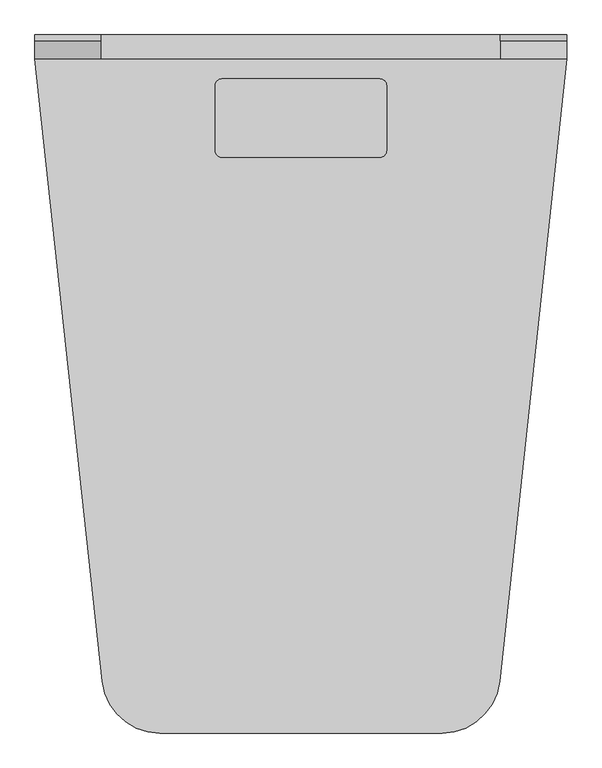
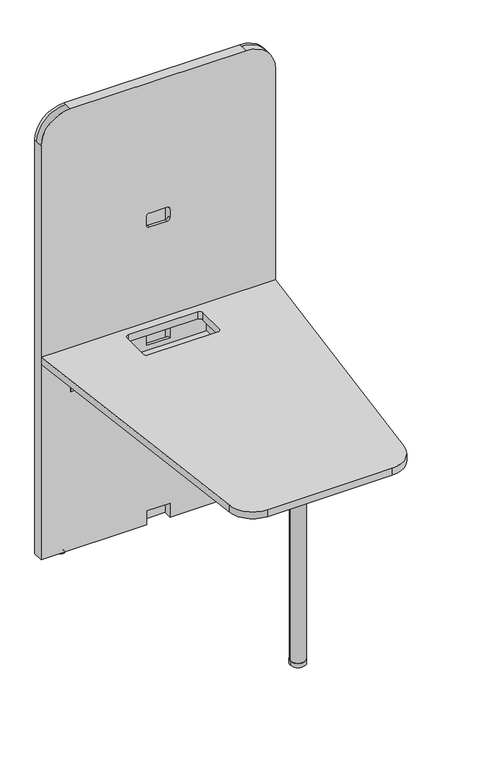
"""IFC4 building model written with IfcOpenShell, lengths in millimetres: furniture geometry, Mobiliário_Mobiliário de Escritório_LinhaYoung_Mesa Multimídia Tampo e Painel para Cabine - YMC_Marelli : Mobiliário_Mobiliário de Escritório_LinhaYoung_Mesa Multimídia Tampo e Painel para Cabine - YMC_Marelli."""

import ifcopenshell
import ifcopenshell.guid

model = None  # the IFC model being written
_history = None  # IfcOwnerHistory: only IFC2X3 demands one
_inside = {}  # id of a spatial element -> (the spatial element, [elements in it])
_under = {}  # id of a project, library or spatial element -> (it, [spatial elements below it])
_declared = {}  # id of a project -> (the project, [libraries it declares])
_typed = {}  # id of a type object -> (the type object, [elements of that type])
_made_of = {}  # id of a material, layer set ... -> (it, [elements and type objects made of it])


def new_model(schema):
    """Start an empty IFC model of exactly this schema.

    Asked for "IFC4X3", IfcOpenShell would pick the latest addendum, in which some entities
    have other attributes; the version numbers below select the first issue.
    IFC2X3 requires an IfcOwnerHistory on every rooted entity: one is made here for all.
    """
    global model, _history
    if schema == "IFC4X3":
        model = ifcopenshell.file(schema_version=(4, 3, 0, 0))
    else:
        model = ifcopenshell.file(schema=schema)
    _inside.clear()
    _under.clear()
    _declared.clear()
    _typed.clear()
    _made_of.clear()
    _history = None
    if model.schema == "IFC2X3":
        org = make("IfcOrganization", Name="unknown")
        user = make(
            "IfcPersonAndOrganization",
            ThePerson=make("IfcPerson", FamilyName="unknown"),
            TheOrganization=org,
        )
        app = make(
            "IfcApplication",
            ApplicationDeveloper=org,
            Version="unknown",
            ApplicationFullName="unknown",
            ApplicationIdentifier="unknown",
        )
        _history = make(
            "IfcOwnerHistory",
            OwningUser=user,
            OwningApplication=app,
            ChangeAction="ADDED",
            CreationDate=0,
        )
    return model


def make(cls, **values):
    """One entity of the class cls with the attributes given. An attribute that is None is left unset."""
    return model.create_entity(
        cls, **{name: value for name, value in values.items() if value is not None}
    )


def rooted(cls, **values):
    """An entity with a GlobalId (a new one), such as an element, a storey or a relation."""
    return make(cls, GlobalId=ifcopenshell.guid.new(), OwnerHistory=_history, **values)


def si_unit(unit_type, name, prefix=None):
    """IfcSIUnit, for example si_unit("LENGTHUNIT", "METRE", prefix="MILLI")."""
    return make("IfcSIUnit", UnitType=unit_type, Prefix=prefix, Name=name)


def assignment(units):
    """IfcUnitAssignment: the units of a project."""
    return None if units is None else make("IfcUnitAssignment", Units=units)


def point(xyz):
    """IfcCartesianPoint."""
    return None if xyz is None else make("IfcCartesianPoint", Coordinates=xyz)


def direction(xyz):
    """IfcDirection."""
    return None if xyz is None else make("IfcDirection", DirectionRatios=xyz)


def frame(location, z_axis=None, x_axis=None):
    """IfcAxis2Placement3D, a coordinate frame: its origin and axes. An axis left out is left unset."""
    return make(
        "IfcAxis2Placement3D",
        Location=point(location),
        Axis=direction(z_axis),
        RefDirection=direction(x_axis),
    )


def frame_2d(location, x_axis=None):
    """IfcAxis2Placement2D, a coordinate frame in the plane: its origin and x axis."""
    return make(
        "IfcAxis2Placement2D", Location=point(location), RefDirection=direction(x_axis)
    )


def origin():
    """The frame at (0, 0, 0) with its axes left unset."""
    return frame((0.0, 0.0, 0.0))


def origin_with_axes():
    """The frame at (0, 0, 0) with the z axis (0, 0, 1) and the x axis (1, 0, 0) written out."""
    return frame((0.0, 0.0, 0.0), z_axis=(0.0, 0.0, 1.0), x_axis=(1.0, 0.0, 0.0))


def place(relative_to, where):
    """IfcLocalPlacement: puts the frame where relative to a parent placement (None: the world)."""
    return make(
        "IfcLocalPlacement", PlacementRelTo=relative_to, RelativePlacement=where
    )


def context(
    kind, dimensions, precision=None, world=None, true_north=None, identifier=None
):
    """IfcGeometricRepresentationContext, for example the 3D "Model" context."""
    return make(
        "IfcGeometricRepresentationContext",
        ContextIdentifier=identifier,
        ContextType=kind,
        CoordinateSpaceDimension=dimensions,
        Precision=precision,
        WorldCoordinateSystem=world,
        TrueNorth=true_north,
    )


def project(units=None, contexts=None):
    """IfcProject with its units and contexts."""
    return rooted(
        "IfcProject",
        Name="project",
        RepresentationContexts=contexts,
        UnitsInContext=assignment(units),
    )


def spatial(cls, under=None, at=None, **own):
    """A site, building, storey or space (cls), placed at a placement, below another one or the project."""
    s = rooted(cls, ObjectPlacement=at, **own)
    if under is not None:
        _under.setdefault(under.id(), (under, []))[1].append(s)
    return s


def polyline(points):
    """IfcPolyline through the points."""
    return make("IfcPolyline", Points=[point(p) for p in points])


def circle_curve(where, radius):
    """IfcCircle in the frame where."""
    return make("IfcCircle", Position=where, Radius=radius)


def trimmed(basis, trim1, trim2, sense, master):
    """IfcTrimmedCurve: the piece of a basis curve between two trims."""
    return make(
        "IfcTrimmedCurve",
        BasisCurve=basis,
        Trim1=trim1,
        Trim2=trim2,
        SenseAgreement=sense,
        MasterRepresentation=master,
    )


def segment(curve, same_sense, transition):
    """IfcCompositeCurveSegment."""
    return make(
        "IfcCompositeCurveSegment",
        Transition=transition,
        SameSense=same_sense,
        ParentCurve=curve,
    )


def composite_curve(segments, self_intersect=None):
    """IfcCompositeCurve: segments joined end to end."""
    return make("IfcCompositeCurve", Segments=segments, SelfIntersect=self_intersect)


def outline(outer, holes=None, kind="AREA"):
    """IfcArbitraryClosedProfileDef: a profile drawn as a closed curve; with holes, ...WithVoids."""
    if holes is None:
        return make("IfcArbitraryClosedProfileDef", ProfileType=kind, OuterCurve=outer)
    return make(
        "IfcArbitraryProfileDefWithVoids",
        ProfileType=kind,
        OuterCurve=outer,
        InnerCurves=holes,
    )


def extrude(swept, where, along, depth):
    """IfcExtrudedAreaSolid: the profile swept, set in the frame where, extruded along a direction by depth."""
    return make(
        "IfcExtrudedAreaSolid",
        SweptArea=swept,
        Position=where,
        ExtrudedDirection=direction(along),
        Depth=depth,
    )


def shape(context_of_items, identifier, shape_type, items):
    """IfcShapeRepresentation: the items that make up one representation, for example the "Body"."""
    return make(
        "IfcShapeRepresentation",
        ContextOfItems=context_of_items,
        RepresentationIdentifier=identifier,
        RepresentationType=shape_type,
        Items=items,
    )


def source(mapping_origin, context_of_items, identifier, shape_type, items):
    """IfcRepresentationMap: a shape defined once, which mapped items show again and again."""
    return make(
        "IfcRepresentationMap",
        MappingOrigin=mapping_origin,
        MappedRepresentation=shape(context_of_items, identifier, shape_type, items),
    )


def transform(
    local_origin,
    x_axis=None,
    y_axis=None,
    z_axis=None,
    scale=None,
    scale2=None,
    scale3=None,
    uniform=True,
):
    """IfcCartesianTransformationOperator3D, or its non-uniform kind. x_axis, y_axis, z_axis: its Axis1, 2, 3."""
    if uniform:
        return make(
            "IfcCartesianTransformationOperator3D",
            Axis1=direction(x_axis),
            Axis2=direction(y_axis),
            LocalOrigin=point(local_origin),
            Scale=scale,
            Axis3=direction(z_axis),
        )
    return make(
        "IfcCartesianTransformationOperator3DnonUniform",
        Axis1=direction(x_axis),
        Axis2=direction(y_axis),
        LocalOrigin=point(local_origin),
        Scale=scale,
        Axis3=direction(z_axis),
        Scale2=scale2,
        Scale3=scale3,
    )


def mapped(mapping_source, mapping_target):
    """IfcMappedItem: shows the shape of a source again, moved by a transform."""
    return make(
        "IfcMappedItem", MappingSource=mapping_source, MappingTarget=mapping_target
    )


def made_of(thing, what):
    """Note that an element or type object is made of a material, layer set ...; save() writes the relation."""
    if what is not None:
        _made_of.setdefault(what.id(), (what, []))[1].append(thing)
    return thing


def element(
    cls,
    number,
    at=None,
    inside=None,
    cuts=None,
    type_object=None,
    material=None,
    context=None,
    identifier="Body",
    shape_type=None,
    held_by="IfcProductDefinitionShape",
    body=None,
    shapes=None,
    **own,
):
    """One element of the class cls, such as IfcWall. Its Tag is "e" and its number.

    at: its placement. inside: the storey or other place that contains it. cuts: it is an
    opening in that element (IfcRelVoidsElement). A single representation is given by context,
    identifier, shape_type and body (its items); several are given by shapes. held_by: the class
    of the entity that holds the representations. save() writes the other relations.
    """
    e = rooted(cls, Tag="e%d" % number, ObjectPlacement=at, **own)
    if body is not None:
        shapes = [shape(context, identifier, shape_type, body)]
    if shapes is not None:
        e.Representation = make(held_by, Representations=shapes)
    if inside is not None:
        _inside.setdefault(inside.id(), (inside, []))[1].append(e)
    if cuts is not None:
        rooted(
            "IfcRelVoidsElement", RelatingBuildingElement=cuts, RelatedOpeningElement=e
        )
    if type_object is not None:
        _typed.setdefault(type_object.id(), (type_object, []))[1].append(e)
    return made_of(e, material)


def aggregate(whole, parts):
    """IfcRelAggregates: a whole, such as a stair, and the parts it consists of."""
    return rooted("IfcRelAggregates", RelatingObject=whole, RelatedObjects=parts)


def save(model, path):
    """Write the relations noted so far, then the file.

    IfcRelAggregates (storeys below a building ...), IfcRelContainedInSpatialStructure (elements
    in a storey), IfcRelDefinesByType, IfcRelAssociatesMaterial and IfcRelDeclares: one each for
    every whole, place, type object, material and project.
    """
    for whole, parts in _under.values():
        aggregate(whole, parts)
    for where, things in _inside.values():
        rooted(
            "IfcRelContainedInSpatialStructure",
            RelatedElements=things,
            RelatingStructure=where,
        )
    for kind, things in _typed.values():
        rooted("IfcRelDefinesByType", RelatedObjects=things, RelatingType=kind)
    for what, things in _made_of.values():
        rooted("IfcRelAssociatesMaterial", RelatedObjects=things, RelatingMaterial=what)
    for by, libraries in _declared.values():
        rooted("IfcRelDeclares", RelatingContext=by, RelatedDefinitions=libraries)
    model.write(path)


def plane_surface(at):
    """IfcPlane: the flat surface through the origin of the frame at, square to its z axis."""
    return make("IfcPlane", Position=at)


def cylinder_surface(at, radius):
    """IfcCylindricalSurface: all points at the distance radius from the z axis of the frame at."""
    return make("IfcCylindricalSurface", Position=at, Radius=radius)


def revolved_surface(curve, axis_point, axis_direction):
    """IfcSurfaceOfRevolution: the curve turned about the line through axis_point along axis_direction."""
    return make(
        "IfcSurfaceOfRevolution",
        SweptCurve=make("IfcArbitraryOpenProfileDef", ProfileType="CURVE", Curve=curve),
        AxisPosition=make("IfcAxis1Placement", Location=point(axis_point), Axis=direction(axis_direction)),
    )


def advanced_brep(points, edges, surfaces, faces):
    """IfcAdvancedBrep: a solid bounded by faces that lie on surfaces and meet in shared edges.

    An edge is (start, end): straight between two places in points (the first is 0);
    or (start, end, curve); or (start, end, curve, False) where it runs against its curve.
    A face is (place in surfaces, loops), or (place, loops, False) where it looks against
    its surface's normal. A loop lists edges by number (the first is 1), with a minus sign
    where the edge is run from its end to its start. The first loop is the outer one.
    """
    corners = [point(p) for p in points]
    vertices = [make("IfcVertexPoint", VertexGeometry=c) for c in corners]
    made = []
    for start, end, *more in edges:
        made.append(
            make(
                "IfcEdgeCurve",
                EdgeStart=vertices[start],
                EdgeEnd=vertices[end],
                EdgeGeometry=more[0] if more else make("IfcPolyline", Points=[corners[start], corners[end]]),
                SameSense=more[1] if len(more) > 1 else True,
            )
        )
    hull = []
    for where, loops, *sense in faces:
        bounds = []
        for j, loop in enumerate(loops):
            ring = [make("IfcOrientedEdge", EdgeElement=made[abs(k) - 1], Orientation=k > 0) for k in loop]
            bounds.append(
                make(
                    "IfcFaceOuterBound" if j == 0 else "IfcFaceBound",
                    Bound=make("IfcEdgeLoop", EdgeList=ring),
                    Orientation=True,
                )
            )
        hull.append(make("IfcAdvancedFace", Bounds=bounds, FaceSurface=surfaces[where], SameSense=sense[0] if sense else True))
    return make("IfcAdvancedBrep", Outer=make("IfcClosedShell", CfsFaces=hull))


def furniture_fa825803(model_context):
    return source(origin(), model_context, "Body", "SolidModel", [
        advanced_brep(
        [(360.0, -9.0, 10.0), (440.0, -9.0, 10.0), (440.0, -9.0, 1130.0), (360.0, -9.0, 1130.0), (0.0, 0.0, 1500.0), (100.0, 0.0, 1600.0), (700.0, 0.0, 1600.0), (800.0, 0.0, 1500.0), (800.0, 0.0, 10.0), (0.0, 0.0, 10.0), (0.0, -36.0, 10.0), (0.0, -36.0, 1500.0), (0.0, -9.0, 1500.0), (800.0, -36.0, 10.0), (440.0, -36.0, 10.0), (360.0, -36.0, 10.0), (800.0, -9.0, 1500.0), (800.0, -36.0, 1500.0), (700.0, -9.0, 1600.0), (100.0, -9.0, 1600.0), (100.0, -36.0, 1600.0), (700.0, -36.0, 1600.0), (360.0, -36.0, 60.0), (440.0, -36.0, 60.0), (360.0, -36.0, 1090.0), (360.0, -36.0, 1120.0), (370.0, -36.0, 1130.0), (430.0, -36.0, 1130.0), (440.0, -36.0, 1120.0), (440.0, -36.0, 1090.0), (430.0, -36.0, 1080.0), (370.0, -36.0, 1080.0), (360.0, -36.0, 657.0), (360.0, -36.0, 707.0), (440.0, -36.0, 707.0), (440.0, -36.0, 657.0), (440.0, -27.0, 60.0), (440.0, -27.0, 657.0), (440.0, -27.0, 707.0), (440.0, -27.0, 1090.0), (440.0, -27.0, 1120.0), (440.0, -27.0, 1130.0), (430.0, -27.0, 1130.0), (370.0, -27.0, 1130.0), (360.0, -27.0, 1130.0), (360.0, -27.0, 1120.0), (360.0, -27.0, 1090.0), (360.0, -27.0, 707.0), (360.0, -27.0, 657.0), (360.0, -27.0, 60.0), (370.0, -27.0, 1080.0), (430.0, -27.0, 1080.0)],
        [
            (0, 1),
            (1, 2),
            (2, 3),
            (3, 0),
            (4, 5, circle_curve(frame((100.0, 0.0, 1500.0), z_axis=(0.0, 1.0, 0.0), x_axis=(1.0, 0.0, 0.0)), 100.0)),
            (5, 6),
            (6, 7, circle_curve(frame((700.0, 0.0, 1500.0), z_axis=(0.0, 1.0, 0.0), x_axis=(-1.0, 0.0, 0.0)), 100.0)),
            (7, 8),
            (8, 9),
            (9, 4),
            (9, 10),
            (10, 11),
            (11, 12),
            (12, 4),
            (8, 13),
            (13, 14),
            (14, 1),
            (0, 15),
            (15, 10),
            (7, 16),
            (16, 17),
            (17, 13),
            (6, 18),
            (18, 16, circle_curve(frame((700.0, -9.0, 1500.0), z_axis=(0.0, 1.0, 0.0), x_axis=(-1.0, 0.0, 0.0)), 100.0)),
            (5, 19),
            (19, 20),
            (20, 21),
            (21, 18),
            (12, 19, circle_curve(frame((100.0, -9.0, 1500.0), z_axis=(0.0, 1.0, 0.0), x_axis=(1.0, 0.0, 0.0)), 100.0)),
            (15, 22),
            (22, 23),
            (23, 14),
            (17, 21, circle_curve(frame((700.0, -36.0, 1500.0), z_axis=(0.0, -1.0, 0.0), x_axis=(-1.0, 0.0, 0.0)), 100.0)),
            (20, 11, circle_curve(frame((100.0, -36.0, 1500.0), z_axis=(0.0, -1.0, 0.0), x_axis=(1.0, 0.0, 0.0)), 100.0)),
            (24, 25),
            (25, 26, circle_curve(frame((370.0, -36.0, 1120.0), z_axis=(0.0, 1.0, 0.0), x_axis=(-1.0, 0.0, 0.0)), 10.0)),
            (26, 27),
            (27, 28, circle_curve(frame((430.0, -36.0, 1120.0), z_axis=(0.0, 1.0, 0.0), x_axis=(1.0, 0.0, 0.0)), 10.0)),
            (28, 29),
            (29, 30, circle_curve(frame((430.0, -36.0, 1090.0), z_axis=(0.0, 1.0, 0.0), x_axis=(1.0, 0.0, 0.0)), 10.0)),
            (30, 31),
            (31, 24, circle_curve(frame((370.0, -36.0, 1090.0), z_axis=(0.0, 1.0, 0.0), x_axis=(-1.0, 0.0, 0.0)), 10.0)),
            (32, 33),
            (33, 34),
            (34, 35),
            (35, 32),
            (23, 36),
            (36, 37),
            (37, 35),
            (34, 38),
            (38, 39),
            (39, 29),
            (28, 40),
            (40, 41),
            (41, 2),
            (41, 42),
            (42, 27),
            (26, 43),
            (43, 44),
            (44, 3),
            (44, 45),
            (45, 25),
            (24, 46),
            (46, 47),
            (47, 33),
            (32, 48),
            (48, 49),
            (49, 22),
            (40, 42, circle_curve(frame((430.0, -27.0, 1120.0), z_axis=(0.0, -1.0, 0.0), x_axis=(1.0, 0.0, 0.0)), 10.0)),
            (43, 45, circle_curve(frame((370.0, -27.0, 1120.0), z_axis=(0.0, -1.0, 0.0), x_axis=(-1.0, 0.0, 0.0)), 10.0)),
            (36, 49),
            (48, 37),
            (38, 47),
            (46, 50, circle_curve(frame((370.0, -27.0, 1090.0), z_axis=(0.0, -1.0, 0.0), x_axis=(-1.0, 0.0, 0.0)), 10.0)),
            (50, 51),
            (51, 39, circle_curve(frame((430.0, -27.0, 1090.0), z_axis=(0.0, -1.0, 0.0), x_axis=(1.0, 0.0, 0.0)), 10.0)),
            (51, 30),
            (50, 31),
        ],
        [
            plane_surface(frame((0.0, -9.0, 0.0), z_axis=(0.0, -1.0, 0.0), x_axis=(0.0, 0.0, -1.0))),
            plane_surface(frame((0.0, 0.0, 0.0), z_axis=(0.0, 1.0, 0.0), x_axis=(0.0, 0.0, 1.0))),
            plane_surface(frame((0.0, -9.0, 1500.0), z_axis=(-1.0, 0.0, 0.0), x_axis=(0.0, 1.0, 0.0))),
            plane_surface(frame((0.0, -9.0, 10.0), z_axis=(0.0, 0.0, -1.0), x_axis=(0.0, 1.0, 0.0))),
            plane_surface(frame((800.0, -9.0, 10.0), z_axis=(1.0, 0.0, 0.0), x_axis=(0.0, 1.0, 0.0))),
            cylinder_surface(frame((700.0, 0.0, 1500.0), z_axis=(0.0, -1.0, 0.0), x_axis=(-1.0, 0.0, 0.0)), 100.0),
            plane_surface(frame((700.0, -9.0, 1600.0), z_axis=(0.0, 0.0, 1.0), x_axis=(0.0, 1.0, 0.0))),
            cylinder_surface(frame((100.0, 0.0, 1500.0), z_axis=(0.0, -1.0, 0.0), x_axis=(1.0, 0.0, 0.0)), 100.0),
            plane_surface(frame((200.0, -36.0, 1500.0), z_axis=(0.0, -1.0, 0.0), x_axis=(0.0, 0.0, 1.0))),
            cylinder_surface(frame((700.0, -36.0, 1500.0), z_axis=(0.0, 1.0, 0.0), x_axis=(-1.0, 0.0, 0.0)), 100.0),
            cylinder_surface(frame((100.0, -36.0, 1500.0), z_axis=(0.0, 1.0, 0.0), x_axis=(1.0, 0.0, 0.0)), 100.0),
            plane_surface(frame((440.0, -9.0, 10.0), z_axis=(-1.0, 0.0, 0.0), x_axis=(0.0, -1.0, 0.0))),
            plane_surface(frame((440.0, -9.0, 1130.0), z_axis=(0.0, 0.0, -1.0), x_axis=(0.0, -1.0, 0.0))),
            plane_surface(frame((360.0, -9.0, 1130.0), z_axis=(1.0, 0.0, 0.0), x_axis=(0.0, -1.0, 0.0))),
            plane_surface(frame((440.0, -27.0, 1130.0), z_axis=(0.0, 1.0, 0.0), x_axis=(0.0, 0.0, -1.0))),
            revolved_surface(polyline([(440.0, -27.0, 1120.0), (440.0, -36.0, 1120.0)]), (430.0, -27.0, 1120.0), (0.0, 1.0, 0.0)),
            revolved_surface(polyline([(360.0, -27.0, 1120.0), (360.0, -36.0, 1120.0)]), (370.0, 0.0, 1120.0), (0.0, 1.0, 0.0)),
            revolved_surface(polyline([(440.0, -27.0, 1090.0), (440.0, -36.0, 1090.0)]), (430.0, 0.0, 1090.0), (0.0, 1.0, 0.0)),
            plane_surface(frame((430.0, -36.0, 1080.0), z_axis=(0.0, 0.0, 1.0), x_axis=(0.0, 1.0, 0.0))),
            revolved_surface(polyline([(360.0, -27.0, 1090.0), (360.0, -36.0, 1090.0)]), (370.0, 0.0, 1090.0), (0.0, 1.0, 0.0)),
            plane_surface(frame((360.0, -36.0, 60.0), z_axis=(0.0, 0.0, -1.0), x_axis=(0.0, 1.0, 0.0))),
            plane_surface(frame((440.0, -36.0, 657.0), z_axis=(0.0, 0.0, 1.0), x_axis=(0.0, 1.0, 0.0))),
            plane_surface(frame((360.0, -36.0, 707.0), z_axis=(0.0, 0.0, -1.0), x_axis=(0.0, 1.0, 0.0))),
        ],
        [
            (0, [[1, 2, 3, 4]]),
            (1, [[5, 6, 7, 8, 9, 10]]),
            (2, [[-10, 11, 12, 13, 14]]),
            (3, [[-9, 15, 16, 17, -1, 18, 19, -11]]),
            (4, [[-8, 20, 21, 22, -15]]),
            (5, [[-7, 23, 24, -20]]),
            (6, [[-6, 25, 26, 27, 28, -23]]),
            (7, [[-5, -14, 29, -25]]),
            (8, [[-12, -19, 30, 31, 32, -16, -22, 33, -27, 34], [35, 36, 37, 38, 39, 40, 41, 42], [43, 44, 45, 46]]),
            (9, [[-33, -21, -24, -28]]),
            (10, [[-34, -26, -29, -13]]),
            (11, [[-17, -32, 47, 48, 49, -45, 50, 51, 52, -39, 53, 54, 55, -2]]),
            (12, [[-3, -55, 56, 57, -37, 58, 59, 60]]),
            (13, [[-18, -4, -60, 61, 62, -35, 63, 64, 65, -43, 66, 67, 68, -30]]),
            (14, [[69, -56, -54]]),
            (14, [[70, -61, -59]]),
            (14, [[71, -67, 72, -48]]),
            (14, [[73, -64, 74, 75, 76, -51]]),
            (15, [[-38, -57, -69, -53]]),
            (16, [[-36, -62, -70, -58]]),
            (17, [[-40, -52, -76, 77]]),
            (18, [[-41, -77, -75, 78]]),
            (19, [[-42, -78, -74, -63]]),
            (20, [[-31, -68, -71, -47]]),
            (21, [[-46, -49, -72, -66]]),
            (22, [[-44, -65, -73, -50]]),
        ],
    ),
        extrude(outline(composite_curve([segment(trimmed(circle_curve(frame_2d((612.5, -963.0)), 87.0), [point((698.9982135, -972.3305448))], [point((612.5, -1050.0))], False, "CARTESIAN"), True, "CONTINUOUS"), segment(polyline([(612.5, -1050.0), (187.5, -1050.0)]), True, "CONTINUOUS"), segment(trimmed(circle_curve(frame_2d((187.5, -963.0)), 87.0), [point((187.5, -1050.0))], [point((101.0017865, -972.3305448))], False, "CARTESIAN"), True, "CONTINUOUS"), segment(polyline([(101.0017865, -972.3305448), (0.0, -36.0), (800.0, -36.0), (698.9982135, -972.3305448)]), True, "CONTINUOUS")], self_intersect=False), holes=[composite_curve([segment(polyline([(519.0, -66.0), (281.0, -66.0)]), True, "CONTINUOUS"), segment(trimmed(circle_curve(frame_2d((281.0, -76.0)), 10.0), [point((281.0, -66.0))], [point((271.0, -76.0))], True, "CARTESIAN"), True, "CONTINUOUS"), segment(polyline([(271.0, -76.0), (271.0, -174.0)]), True, "CONTINUOUS"), segment(trimmed(circle_curve(frame_2d((281.0, -174.0)), 10.0), [point((271.0, -174.0))], [point((281.0, -184.0))], True, "CARTESIAN"), True, "CONTINUOUS"), segment(polyline([(281.0, -184.0), (519.0, -184.0)]), True, "CONTINUOUS"), segment(trimmed(circle_curve(frame_2d((519.0, -174.0)), 10.0), [point((519.0, -184.0))], [point((529.0, -174.0))], True, "CARTESIAN"), True, "CONTINUOUS"), segment(polyline([(529.0, -174.0), (529.0, -76.0)]), True, "CONTINUOUS"), segment(trimmed(circle_curve(frame_2d((519.0, -76.0)), 10.0), [point((529.0, -76.0))], [point((519.0, -66.0))], True, "CARTESIAN"), True, "CONTINUOUS")], self_intersect=False)]), frame((0.0, 0.0, 715.0), z_axis=(0.0, 0.0, 1.0), x_axis=(1.0, 0.0, 0.0)), (0.0, 0.0, 1.0), 25.0),
        extrude(outline(composite_curve([segment(polyline([(359.3038815, -812.0), (440.6961185, -812.0)]), True, "CONTINUOUS"), segment(trimmed(circle_curve(frame_2d((440.6961185, -813.8038815)), 1.8038815), [point((440.6961185, -812.0))], [point((442.5, -813.8038815))], False, "CARTESIAN"), True, "CONTINUOUS"), segment(polyline([(442.5, -813.8038815), (442.5, -910.1961185)]), True, "CONTINUOUS"), segment(trimmed(circle_curve(frame_2d((440.6961185, -910.1961185)), 1.8038815), [point((442.5, -910.1961185))], [point((440.6961185, -912.0))], False, "CARTESIAN"), True, "CONTINUOUS"), segment(polyline([(440.6961185, -912.0), (359.3038815, -912.0)]), True, "CONTINUOUS"), segment(trimmed(circle_curve(frame_2d((359.3038815, -910.1961185)), 1.8038815), [point((359.3038815, -912.0))], [point((357.5, -910.1961185))], False, "CARTESIAN"), True, "CONTINUOUS"), segment(polyline([(357.5, -910.1961185), (357.5, -813.8038815)]), True, "CONTINUOUS"), segment(trimmed(circle_curve(frame_2d((359.3038815, -813.8038815)), 1.8038815), [point((357.5, -813.8038815))], [point((359.3038815, -812.0))], False, "CARTESIAN"), True, "CONTINUOUS")], self_intersect=False)), frame((0.0, 0.0, 713.0), z_axis=(0.0, 0.0, 1.0), x_axis=(1.0, 0.0, 0.0)), (0.0, 0.0, 1.0), 2.0),
        extrude(outline(composite_curve([segment(trimmed(circle_curve(frame_2d((400.0, -862.0)), 25.0), [point((375.0, -862.0))], [point((425.0, -862.0))], False, "CARTESIAN"), True, "CONTINUOUS"), segment(trimmed(circle_curve(frame_2d((400.0, -862.0)), 25.0), [point((425.0, -862.0))], [point((375.0, -862.0))], False, "CARTESIAN"), True, "CONTINUOUS")], self_intersect=False)), frame((0.0, 0.0, 15.0), z_axis=(0.0, 0.0, 1.0), x_axis=(1.0, 0.0, 0.0)), (0.0, 0.0, 1.0), 698.0),
        extrude(outline(composite_curve([segment(trimmed(circle_curve(frame_2d((400.0, -862.0)), 26.0), [point((374.0, -862.0))], [point((426.0, -862.0))], False, "CARTESIAN"), True, "CONTINUOUS"), segment(trimmed(circle_curve(frame_2d((400.0, -862.0)), 26.0), [point((426.0, -862.0))], [point((374.0, -862.0))], False, "CARTESIAN"), True, "CONTINUOUS")], self_intersect=False)), origin_with_axes(), (0.0, 0.0, 1.0), 15.0),
        extrude(outline(polyline([(-36.0, 582.0), (-38.0, 582.0), (-38.0, 665.1173334), (-91.4142136, 713.5857864), (-148.0, 713.5857864), (-148.0, 715.0), (-90.0, 715.0), (-36.0, 666.0), (-36.0, 582.0)])), frame((100.0, 0.0, 0.0), z_axis=(1.0, 0.0, 0.0), x_axis=(0.0, 1.0, 0.0)), (0.0, 0.0, 1.0), 85.0),
        extrude(outline(polyline([(-36.0, 582.0), (-38.0, 582.0), (-38.0, 665.1173334), (-91.4142136, 713.5857864), (-148.0, 713.5857864), (-148.0, 715.0), (-90.0, 715.0), (-36.0, 666.0), (-36.0, 582.0)])), frame((615.0, 0.0, 0.0), z_axis=(1.0, 0.0, 0.0), x_axis=(0.0, 1.0, 0.0)), (0.0, 0.0, 1.0), 85.0),
        extrude(outline(composite_curve([segment(polyline([(459.0, 465.0), (459.0, 335.0)]), True, "CONTINUOUS"), segment(trimmed(circle_curve(frame_2d((449.0, 335.0)), 10.0), [point((459.0, 335.0))], [point((449.0, 325.0))], False, "CARTESIAN"), True, "CONTINUOUS"), segment(polyline([(449.0, 325.0), (412.0, 325.0)]), True, "CONTINUOUS"), segment(trimmed(circle_curve(frame_2d((412.0, 335.0)), 10.0), [point((412.0, 325.0))], [point((402.0, 335.0))], False, "CARTESIAN"), True, "CONTINUOUS"), segment(polyline([(402.0, 335.0), (402.0, 465.0)]), True, "CONTINUOUS"), segment(trimmed(circle_curve(frame_2d((412.0, 465.0)), 10.0), [point((402.0, 465.0))], [point((412.0, 475.0))], False, "CARTESIAN"), True, "CONTINUOUS"), segment(polyline([(412.0, 475.0), (449.0, 475.0)]), True, "CONTINUOUS"), segment(trimmed(circle_curve(frame_2d((449.0, 465.0)), 10.0), [point((449.0, 475.0))], [point((459.0, 465.0))], False, "CARTESIAN"), True, "CONTINUOUS")], self_intersect=False)), frame((0.0, -41.0, 0.0), z_axis=(0.0, 1.0, 0.0), x_axis=(0.0, 0.0, 1.0)), (0.0, 0.0, 1.0), 5.0),
        extrude(outline(composite_curve([segment(trimmed(circle_curve(frame_2d((465.0, -302.0)), 10.0), [point((465.0, -292.0))], [point((475.0, -302.0))], False, "CARTESIAN"), True, "CONTINUOUS"), segment(polyline([(475.0, -302.0), (475.0, -339.0)]), True, "CONTINUOUS"), segment(trimmed(circle_curve(frame_2d((465.0, -339.0)), 10.0), [point((475.0, -339.0))], [point((465.0, -349.0))], False, "CARTESIAN"), True, "CONTINUOUS"), segment(polyline([(465.0, -349.0), (335.0, -349.0)]), True, "CONTINUOUS"), segment(trimmed(circle_curve(frame_2d((335.0, -339.0)), 10.0), [point((335.0, -349.0))], [point((325.0, -339.0))], False, "CARTESIAN"), True, "CONTINUOUS"), segment(polyline([(325.0, -339.0), (325.0, -302.0)]), True, "CONTINUOUS"), segment(trimmed(circle_curve(frame_2d((335.0, -302.0)), 10.0), [point((325.0, -302.0))], [point((335.0, -292.0))], False, "CARTESIAN"), True, "CONTINUOUS"), segment(polyline([(335.0, -292.0), (465.0, -292.0)]), True, "CONTINUOUS")], self_intersect=False)), frame((0.0, 0.0, 710.0), z_axis=(0.0, 0.0, 1.0), x_axis=(1.0, 0.0, 0.0)), (0.0, 0.0, 1.0), 5.0),
        extrude(outline(polyline([(-41.0, 449.0), (-41.0, 417.0), (-334.0, 710.0), (-302.0, 710.0), (-41.0, 449.0)])), frame((389.5, 0.0, 0.0), z_axis=(1.0, 0.0, 0.0), x_axis=(0.0, 1.0, 0.0)), (0.0, 0.0, 1.0), 21.0),
        advanced_brep(
        [(74.5, -18.0, 6.0), (85.5, -18.0, 6.0), (69.5, -18.0, 0.0), (90.5, -18.0, 0.0)],
        [
            (0, 1, circle_curve(frame((80.0, -18.0, 6.0), z_axis=(0.0, 0.0, 1.0), x_axis=(-1.0, 0.0, 0.0)), 5.5)),
            (1, 0, circle_curve(frame((80.0, -18.0, 6.0), z_axis=(0.0, 0.0, 1.0), x_axis=(1.0, 0.0, 0.0)), 5.5)),
            (2, 3, circle_curve(frame((80.0, -18.0, 0.0), z_axis=(0.0, 0.0, -1.0), x_axis=(1.0, 0.0, 0.0)), 10.5)),
            (3, 2, circle_curve(frame((80.0, -18.0, 0.0), z_axis=(0.0, 0.0, -1.0), x_axis=(-1.0, 0.0, 0.0)), 10.5)),
            (3, 1),
            (0, 2),
        ],
        [
            plane_surface(frame((80.0, -18.0, 6.0), z_axis=(0.0, 0.0, 1.0), x_axis=(0.0, -1.0, 0.0))),
            plane_surface(frame((80.0, -18.0, 0.0), z_axis=(0.0, 0.0, -1.0), x_axis=(0.0, -1.0, 0.0))),
            revolved_surface(polyline([(74.5, -18.0, 5.999999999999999), (69.5, -18.0, 0.0)]), (80.0, -18.0, 12.6), (0.0, 0.0, -1.0)),
            revolved_surface(polyline([(85.5, -18.0, 5.999999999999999), (90.5, -18.0, 0.0)]), (80.0, -18.0, 12.6), (0.0, 0.0, -1.0)),
        ],
        [
            (0, [[1, 2]]),
            (1, [[3, 4]]),
            (2, [[-4, 5, -1, 6]]),
            (3, [[-3, -6, -2, -5]]),
        ],
    ),
        advanced_brep(
        [(725.5, -18.0, 6.0), (714.5, -18.0, 6.0), (730.5, -18.0, 0.0), (709.5, -18.0, 0.0)],
        [
            (0, 1, circle_curve(frame((720.0, -18.0, 6.0), z_axis=(0.0, 0.0, 1.0), x_axis=(1.0, 0.0, 0.0)), 5.5)),
            (1, 0, circle_curve(frame((720.0, -18.0, 6.0), z_axis=(0.0, 0.0, 1.0), x_axis=(-1.0, 0.0, 0.0)), 5.5)),
            (2, 3, circle_curve(frame((720.0, -18.0, 0.0), z_axis=(0.0, 0.0, -1.0), x_axis=(-1.0, 0.0, 0.0)), 10.5)),
            (3, 2, circle_curve(frame((720.0, -18.0, 0.0), z_axis=(0.0, 0.0, -1.0), x_axis=(1.0, 0.0, 0.0)), 10.5)),
            (2, 0),
            (1, 3),
        ],
        [
            plane_surface(frame((720.0, -18.0, 6.0), z_axis=(0.0, 0.0, 1.0), x_axis=(0.0, 1.0, 0.0))),
            plane_surface(frame((720.0, -18.0, 0.0), z_axis=(0.0, 0.0, -1.0), x_axis=(0.0, 1.0, 0.0))),
            revolved_surface(polyline([(714.5, -18.0, 5.999999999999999), (709.5, -18.0, 0.0)]), (720.0, -18.0, 12.6), (0.0, 0.0, -1.0)),
            revolved_surface(polyline([(725.5, -18.0, 5.999999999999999), (730.5, -18.0, 0.0)]), (720.0, -18.0, 12.6), (0.0, 0.0, -1.0)),
        ],
        [
            (0, [[1, 2]]),
            (1, [[3, 4]]),
            (2, [[-3, 5, -2, 6]]),
            (3, [[-4, -6, -1, -5]]),
        ],
    ),
        extrude(outline(composite_curve([segment(trimmed(circle_curve(frame_2d((80.0, -18.0)), 5.0), [point((75.0, -18.0))], [point((85.0, -18.0))], False, "CARTESIAN"), True, "CONTINUOUS"), segment(trimmed(circle_curve(frame_2d((80.0, -18.0)), 5.0), [point((85.0, -18.0))], [point((75.0, -18.0))], False, "CARTESIAN"), True, "CONTINUOUS")], self_intersect=False)), frame((0.0, 0.0, 6.0), z_axis=(0.0, 0.0, 1.0), x_axis=(1.0, 0.0, 0.0)), (0.0, 0.0, 1.0), 4.0),
        extrude(outline(composite_curve([segment(trimmed(circle_curve(frame_2d((720.0, -18.0)), 5.0), [point((725.0, -18.0))], [point((715.0, -18.0))], False, "CARTESIAN"), True, "CONTINUOUS"), segment(trimmed(circle_curve(frame_2d((720.0, -18.0)), 5.0), [point((715.0, -18.0))], [point((725.0, -18.0))], False, "CARTESIAN"), True, "CONTINUOUS")], self_intersect=False)), frame((0.0, 0.0, 6.0), z_axis=(0.0, 0.0, 1.0), x_axis=(1.0, 0.0, 0.0)), (0.0, 0.0, 1.0), 4.0),
        extrude(outline(polyline([(645.0, 239.0), (645.0, 561.0), (715.0, 561.0), (715.0, 560.0), (646.0, 560.0), (646.0, 240.0), (715.0, 240.0), (715.0, 239.0), (645.0, 239.0)])), frame((0.0, -191.0, 0.0), z_axis=(0.0, 1.0, 0.0), x_axis=(0.0, 0.0, 1.0)), (0.0, 0.0, 1.0), 145.0),
        extrude(outline(polyline([(558.0, -191.0), (245.0, -191.0), (245.0, -190.0), (558.0, -190.0), (558.0, -191.0)])), frame((0.0, 0.0, 648.0), z_axis=(0.0, 0.0, 1.0), x_axis=(1.0, 0.0, 0.0)), (0.0, 0.0, 1.0), 67.0),
    ])


if __name__ == "__main__":
    model = new_model("IFC4")
    model_context = context("Model", 3, world=origin())
    ifc_project = project(units=[si_unit("LENGTHUNIT", "METRE", prefix="MILLI")], contexts=[model_context])
    site = spatial("IfcSite", under=ifc_project)
    building = spatial("IfcBuilding", under=site)
    placement = place(None, origin())
    furniture_shape = furniture_fa825803(model_context)
    element("IfcFurniture", 1, ObjectType="Mobiliário_Mobiliário de Escritório_LinhaYoung_Mesa Multimídia Tampo e Painel para Cabine - YMC_Marelli : Mobiliário_Mobiliário de Escritório_LinhaYoung_Mesa Multimídia Tampo e Painel para Cabine - YMC_Marelli", at=placement, inside=building, context=model_context, shape_type="MappedRepresentation", body=[
        mapped(furniture_shape, transform((0.0, 0.0, 0.0), x_axis=(1.0, 0.0, 0.0), y_axis=(0.0, 1.0, 0.0), z_axis=(0.0, 0.0, 1.0))),
    ])
    save(model, "model.ifc")
